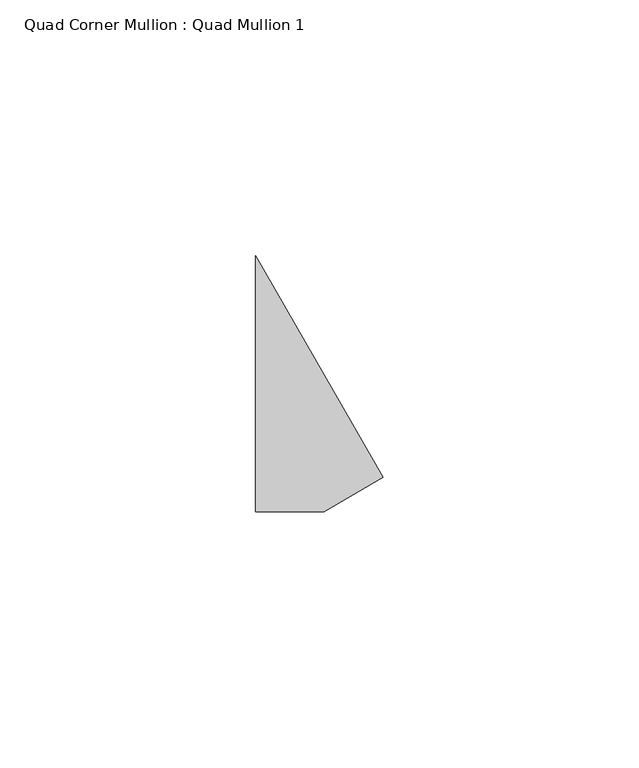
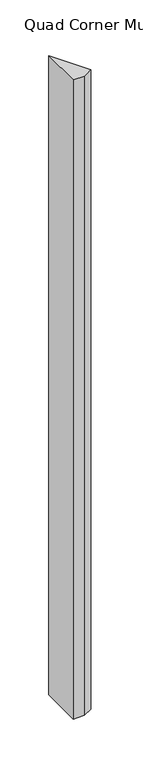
"""IFC4 building model written with IfcOpenShell, lengths in millimetres: member geometry, Quad Corner Mullion : Quad Mullion 1."""

from ifc_helpers import new_model, si_unit, frame, origin, place, context, project, spatial, polyline, outline, extrude, source, transform, mapped, element, save


def quad_corner_mullion_quad_mullion_1_c2cc46d9(model_context):
    return source(origin(), model_context, "Body", "SweptSolid", [
        extrude(outline(polyline([(18.2517715, -18.3425598), (6.6765759, -25.0), (-6.6765759, -25.0), (-6.6765759, 25.0), (18.2517715, -18.3425598)])), frame((0.0, 0.0, -800.0), z_axis=(0.0, 0.0, 1.0), x_axis=(1.0, 0.0, 0.0)), (0.0, 0.0, 1.0), 800.0),
    ])


if __name__ == "__main__":
    model = new_model("IFC4")
    model_context = context("Model", 3, world=origin())
    ifc_project = project(units=[si_unit("LENGTHUNIT", "METRE", prefix="MILLI")], contexts=[model_context])
    site = spatial("IfcSite", under=ifc_project)
    building = spatial("IfcBuilding", under=site)
    placement = place(None, origin())
    quad_corner_mullion_quad_mullion_1_shape = quad_corner_mullion_quad_mullion_1_c2cc46d9(model_context)
    element("IfcMember", 1, ObjectType="Quad Corner Mullion : Quad Mullion 1", at=placement, inside=building, context=model_context, shape_type="MappedRepresentation", body=[
        mapped(quad_corner_mullion_quad_mullion_1_shape, transform((0.0, 0.0, 0.0), x_axis=(1.0, 0.0, 0.0), y_axis=(0.0, 1.0, 0.0), z_axis=(0.0, 0.0, 1.0))),
    ])
    save(model, "model.ifc")
